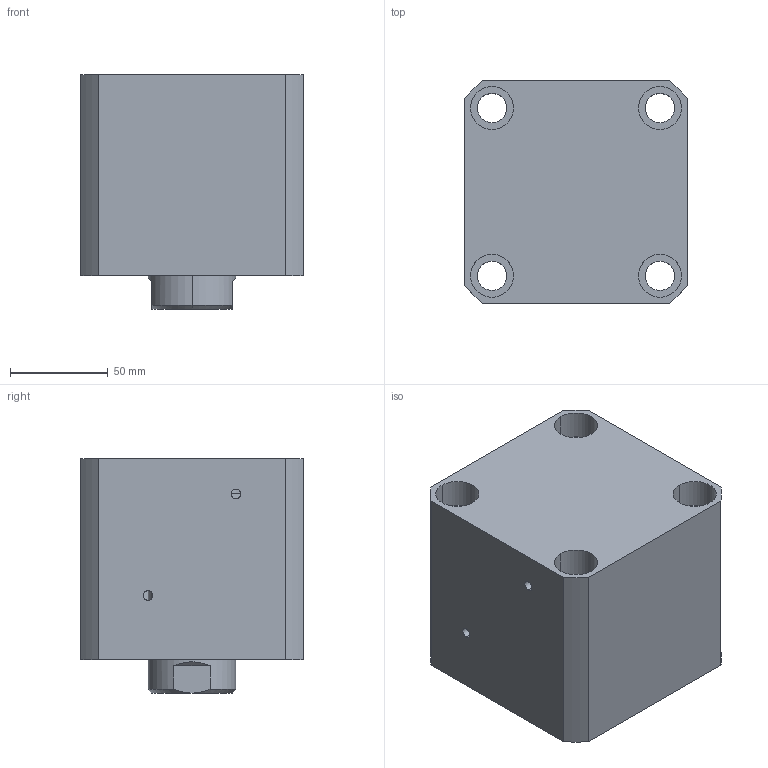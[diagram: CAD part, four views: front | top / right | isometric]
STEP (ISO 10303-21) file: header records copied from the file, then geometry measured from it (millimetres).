
FILE_DESCRIPTION (( 'STEP AP214' ), '1' );
FILE_NAME ('chtb-sdma80x25n_asm.STEP', '2018-05-29T01:38:09', ( 'Windows' ), ( 'Microsoft' ), 'SwSTEP 2.0', 'SolidWorks 2015', '' );
FILE_SCHEMA (( 'AUTOMOTIVE_DESIGN' ));
Length unit declared in the file: millimetre
Products named in the file (4): CHTB-SDMA80X25NBT; CHTB-SD80X25NHSG; CHTB-SD80QG; chtb-sdma80x25n_asm
Assembly tree (3 placements, depth 2):
  chtb-sdma80x25n_asm
    CHTB-SD80QG
    CHTB-SD80X25NHSG
    CHTB-SDMA80X25NBT
Bounding box: 114 x 114 x 120 mm (x, y, z)
Volume: 1125585.3 mm3; surface area: 176192.2 mm2
Topology: 3 solids, 3 shells, 190 faces, 516 edges, 345 vertices
Faces by surface type: cylinder 107, plane 35, torus 18, cone 16, bspline 14
Entity records: 15170 total; most frequent: CARTESIAN_POINT 10463, ORIENTED_EDGE 1020, DIRECTION 879, EDGE_CURVE 510, AXIS2_PLACEMENT_3D 368, VERTEX_POINT 345, EDGE_LOOP 227, ADVANCED_FACE 190
